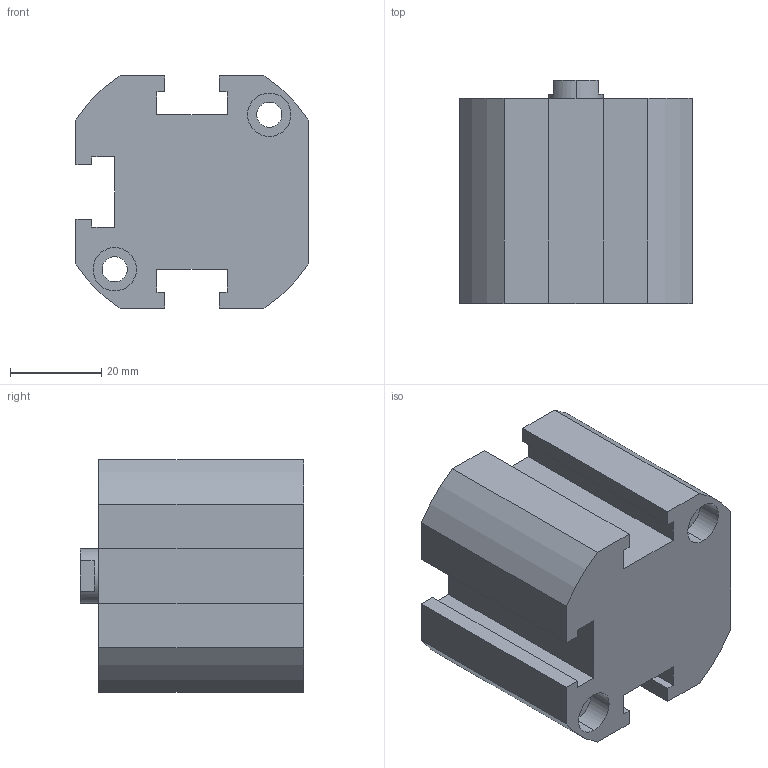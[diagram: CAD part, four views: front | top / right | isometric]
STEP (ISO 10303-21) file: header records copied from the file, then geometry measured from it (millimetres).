
FILE_DESCRIPTION (( 'STEP AP203' ), '1' );
FILE_NAME ('XG#2-32D-10.STEP', '2016-05-24T01:48:10', ( '' ), ( '' ), 'SwSTEP 2.0', 'SolidWorks 2014', '' );
FILE_SCHEMA (( 'CONFIG_CONTROL_DESIGN' ));
Length unit declared in the file: millimetre
Products named in the file (1): XG#2-32D-10
Bounding box: 51 x 49 x 51 mm (x, y, z)
Volume: 88580.6 mm3; surface area: 18648.6 mm2
Topology: 1 solids, 1 shells, 98 faces, 247 edges, 159 vertices
Faces by surface type: plane 46, cylinder 42, cone 10
Entity records: 3006 total; most frequent: DIRECTION 535, CARTESIAN_POINT 499, ORIENTED_EDGE 482, EDGE_CURVE 241, AXIS2_PLACEMENT_3D 195, VERTEX_POINT 159, LINE 145, VECTOR 145
